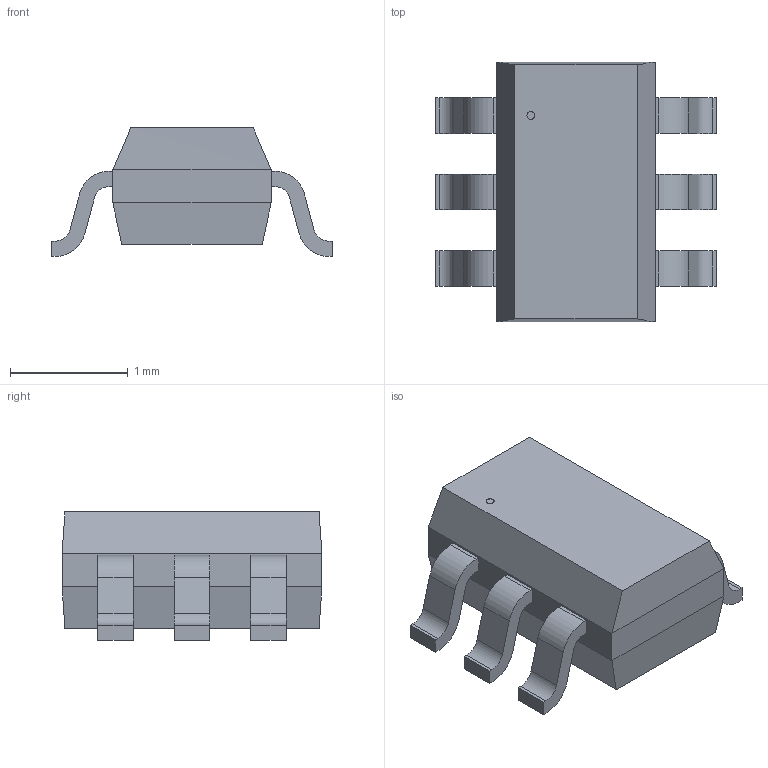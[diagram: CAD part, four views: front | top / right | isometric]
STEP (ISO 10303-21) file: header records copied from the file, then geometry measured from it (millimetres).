
FILE_DESCRIPTION (( 'STEP AP214' ), '1' );
FILE_NAME ('USBUF02W6_navX2-mxp-cad.step', '2025-12-23T16:04:47', ( '' ), ( '' ), 'SwSTEP 2.0', 'SolidWorks 2026', '' );
FILE_SCHEMA (( 'AUTOMOTIVE_DESIGN' ));
Length unit declared in the file: inch
Products named in the file (2): USBUF02W6_navX2-mxp-cad; COMPOUND-11_USBUF02W6_navX2-mxp-cad
Assembly tree (1 placements, depth 2):
  USBUF02W6_navX2-mxp-cad
    COMPOUND-11_USBUF02W6_navX2-mxp-cad
Bounding box: 2.39 x 2.21 x 1.09 mm (x, y, z)
Volume: 3 mm3; surface area: 17 mm2
Topology: 8 solids, 8 shells, 102 faces, 250 edges, 164 vertices
Faces by surface type: plane 76, cylinder 26
Entity records: 3196 total; most frequent: CARTESIAN_POINT 748, ORIENTED_EDGE 500, DIRECTION 438, EDGE_CURVE 250, VERTEX_POINT 164, AXIS2_PLACEMENT_3D 158, VECTOR 122, LINE 122
